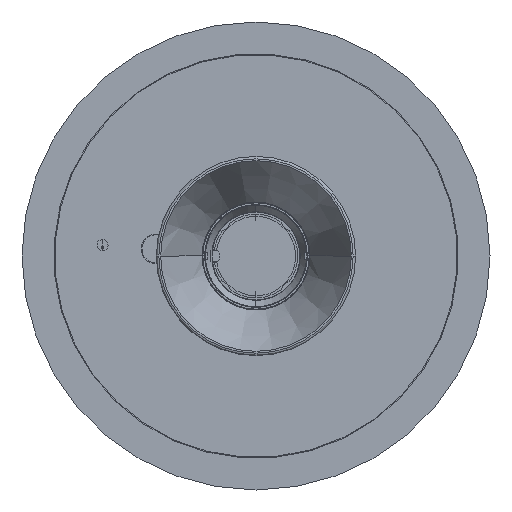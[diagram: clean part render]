
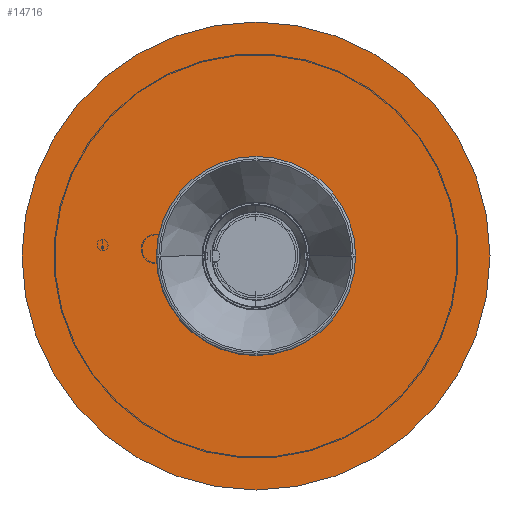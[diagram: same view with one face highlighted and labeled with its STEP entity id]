
A CAD part, front view. The second image highlights one B-rep face of the part: STEP entity #14716.
In plain terms, the highlighted planar face has unit normal (0, -1, 0).
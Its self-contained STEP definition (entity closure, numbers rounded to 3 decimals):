
#324 = CARTESIAN_POINT ( 'NONE',  ( 0., 0., 0. ) ) ;
#663 = CIRCLE ( 'NONE', #3417, 70. ) ;
#995 = AXIS2_PLACEMENT_3D ( 'NONE', #1661, #7462, #13257 ) ;
#1170 = EDGE_LOOP ( 'NONE', ( #7091, #12575 ) ) ;
#1299 = VERTEX_POINT ( 'NONE', #9790 ) ;
#1661 = CARTESIAN_POINT ( 'NONE',  ( 0., 0., 0. ) ) ;
#2812 = DIRECTION ( 'NONE',  ( 0., 1., 0. ) ) ;
#2910 = CARTESIAN_POINT ( 'NONE',  ( 0., 0., 0. ) ) ;
#3119 = CARTESIAN_POINT ( 'NONE',  ( 0., 0., -70. ) ) ;
#3366 = DIRECTION ( 'NONE',  ( 0., 0., 1. ) ) ;
#3417 = AXIS2_PLACEMENT_3D ( 'NONE', #8645, #17199, #9986 ) ;
#3825 = DIRECTION ( 'NONE',  ( 0., 1., 0. ) ) ;
#6224 = CIRCLE ( 'NONE', #12918, 3. ) ;
#6388 = CARTESIAN_POINT ( 'NONE',  ( 0., 0., 0. ) ) ;
#6550 = EDGE_CURVE ( 'NONE', #9898, #9126, #6224, .T. ) ;
#6775 = DIRECTION ( 'NONE',  ( 0., 0., 1. ) ) ;
#7091 = ORIENTED_EDGE ( 'NONE', *, *, #14288, .F. ) ;
#7290 = ORIENTED_EDGE ( 'NONE', *, *, #6550, .T. ) ;
#7462 = DIRECTION ( 'NONE',  ( 0., 1., 0. ) ) ;
#8060 = VERTEX_POINT ( 'NONE', #3119 ) ;
#8181 = AXIS2_PLACEMENT_3D ( 'NONE', #6388, #3825, #6775 ) ;
#8595 = CIRCLE ( 'NONE', #995, 3. ) ;
#8645 = CARTESIAN_POINT ( 'NONE',  ( 0., 0., 0. ) ) ;
#9126 = VERTEX_POINT ( 'NONE', #16138 ) ;
#9209 = AXIS2_PLACEMENT_3D ( 'NONE', #324, #17841, #3366 ) ;
#9283 = ORIENTED_EDGE ( 'NONE', *, *, #16272, .T. ) ;
#9790 = CARTESIAN_POINT ( 'NONE',  ( 0., 0., 70. ) ) ;
#9898 = VERTEX_POINT ( 'NONE', #17227 ) ;
#9986 = DIRECTION ( 'NONE',  ( 0., 0., 1. ) ) ;
#10436 = PLANE ( 'NONE',  #9209 ) ;
#11490 = EDGE_CURVE ( 'NONE', #1299, #8060, #16365, .T. ) ;
#12041 = FACE_OUTER_BOUND ( 'NONE', #1170, .T. ) ;
#12575 = ORIENTED_EDGE ( 'NONE', *, *, #11490, .F. ) ;
#12918 = AXIS2_PLACEMENT_3D ( 'NONE', #2910, #2812, #18768 ) ;
#13257 = DIRECTION ( 'NONE',  ( 0., 0., 1. ) ) ;
#13356 = FACE_BOUND ( 'NONE', #16966, .T. ) ;
#14288 = EDGE_CURVE ( 'NONE', #8060, #1299, #663, .T. ) ;
#14716 = ADVANCED_FACE ( 'NONE', ( #12041, #13356 ), #10436, .F. ) ;
#16138 = CARTESIAN_POINT ( 'NONE',  ( 0., 0., 3. ) ) ;
#16272 = EDGE_CURVE ( 'NONE', #9126, #9898, #8595, .T. ) ;
#16365 = CIRCLE ( 'NONE', #8181, 70. ) ;
#16966 = EDGE_LOOP ( 'NONE', ( #7290, #9283 ) ) ;
#17199 = DIRECTION ( 'NONE',  ( 0., 1., 0. ) ) ;
#17227 = CARTESIAN_POINT ( 'NONE',  ( 0., 0., -3. ) ) ;
#17841 = DIRECTION ( 'NONE',  ( 0., 1., 0. ) ) ;
#18768 = DIRECTION ( 'NONE',  ( 0., 0., 1. ) ) ;
